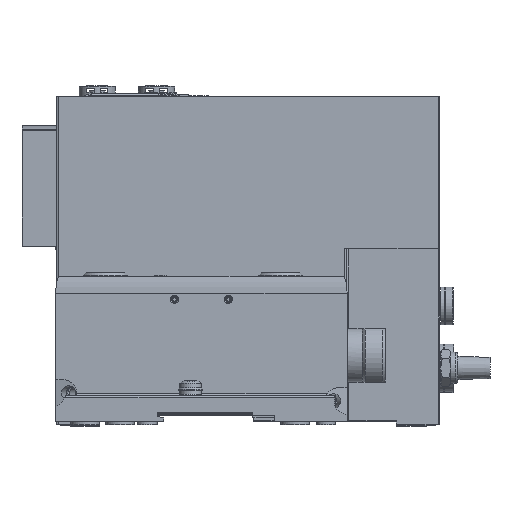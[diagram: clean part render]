
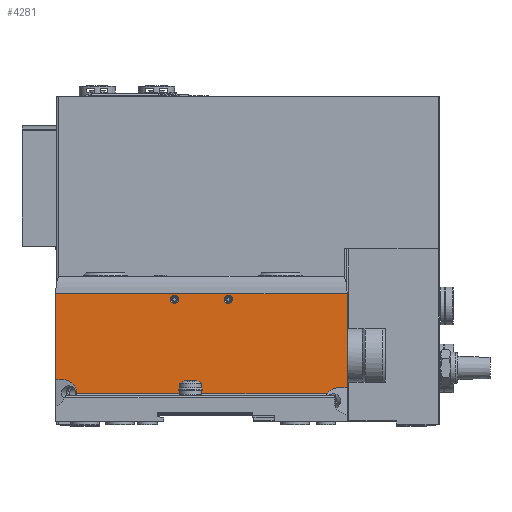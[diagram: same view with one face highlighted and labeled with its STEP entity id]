
A CAD part, top view. The second image highlights one B-rep face of the part: STEP entity #4281.
In plain terms, the highlighted planar face has unit normal (0, 0, 1) as drawn and (-1, 0, 0) by its records, which use the part's own axes.
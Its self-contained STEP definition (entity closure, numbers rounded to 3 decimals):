
#4281 = ADVANCED_FACE( '', ( #10106, #10107, #10108 ), #10109, .F. );
#10106 = FACE_BOUND( '', #17902, .T. );
#10107 = FACE_BOUND( '', #17903, .T. );
#10108 = FACE_OUTER_BOUND( '', #17904, .T. );
#10109 = PLANE( '', #17905 );
#17902 = EDGE_LOOP( '', ( #29877 ) );
#17903 = EDGE_LOOP( '', ( #29878 ) );
#17904 = EDGE_LOOP( '', ( #29879, #29880, #29881, #29882, #29883, #29884, #29885, #29886 ) );
#17905 = AXIS2_PLACEMENT_3D( '', #29887, #29888, #29889 );
#29877 = ORIENTED_EDGE( '', *, *, #46494, .T. );
#29878 = ORIENTED_EDGE( '', *, *, #46495, .T. );
#29879 = ORIENTED_EDGE( '', *, *, #46496, .T. );
#29880 = ORIENTED_EDGE( '', *, *, #46497, .T. );
#29881 = ORIENTED_EDGE( '', *, *, #46498, .F. );
#29882 = ORIENTED_EDGE( '', *, *, #44148, .F. );
#29883 = ORIENTED_EDGE( '', *, *, #46499, .F. );
#29884 = ORIENTED_EDGE( '', *, *, #46500, .T. );
#29885 = ORIENTED_EDGE( '', *, *, #46501, .F. );
#29886 = ORIENTED_EDGE( '', *, *, #46502, .T. );
#29887 = CARTESIAN_POINT( '', ( -15.4, 48.7, 54.05 ) );
#29888 = DIRECTION( '', ( 1., 0., 0. ) );
#29889 = DIRECTION( '', ( 0., 0., -1. ) );
#44148 = EDGE_CURVE( '', #52757, #52759, #52760, .T. );
#46494 = EDGE_CURVE( '', #56535, #56535, #56536, .T. );
#46495 = EDGE_CURVE( '', #56537, #56537, #56538, .T. );
#46496 = EDGE_CURVE( '', #56539, #56540, #56541, .T. );
#46497 = EDGE_CURVE( '', #56540, #56542, #56543, .T. );
#46498 = EDGE_CURVE( '', #52759, #56542, #56544, .F. );
#46499 = EDGE_CURVE( '', #56545, #52757, #56546, .F. );
#46500 = EDGE_CURVE( '', #56545, #56547, #56548, .T. );
#46501 = EDGE_CURVE( '', #56549, #56547, #56550, .T. );
#46502 = EDGE_CURVE( '', #56549, #56539, #56551, .T. );
#52757 = VERTEX_POINT( '', #64810 );
#52759 = VERTEX_POINT( '', #64821 );
#52760 = LINE( '', #64822, #64823 );
#56535 = VERTEX_POINT( '', #70050 );
#56536 = CIRCLE( '', #70051, 1.55 );
#56537 = VERTEX_POINT( '', #70052 );
#56538 = CIRCLE( '', #70053, 1.55 );
#56539 = VERTEX_POINT( '', #70054 );
#56540 = VERTEX_POINT( '', #70055 );
#56541 = LINE( '', #70056, #70057 );
#56542 = VERTEX_POINT( '', #70058 );
#56543 = LINE( '', #70059, #70060 );
#56544 = ELLIPSE( '', #70061, 5.176, 5. );
#56545 = VERTEX_POINT( '', #70062 );
#56546 = ELLIPSE( '', #70063, 5.132, 5. );
#56547 = VERTEX_POINT( '', #70064 );
#56548 = LINE( '', #70065, #70066 );
#56549 = VERTEX_POINT( '', #70067 );
#56550 = LINE( '', #70068, #70069 );
#56551 = LINE( '', #70070, #70071 );
#64810 = CARTESIAN_POINT( '', ( -15.4, 11.6, 46.669 ) );
#64821 = CARTESIAN_POINT( '', ( -15.4, 11.6, -46.319 ) );
#64822 = CARTESIAN_POINT( '', ( -15.4, 11.6, 54.05 ) );
#64823 = VECTOR( '', #79225, 1000. );
#70050 = CARTESIAN_POINT( '', ( -15.4, 46.55, -11.55 ) );
#70051 = AXIS2_PLACEMENT_3D( '', #82336, #82337, #82338 );
#70052 = CARTESIAN_POINT( '', ( -15.4, 46.55, 8.45 ) );
#70053 = AXIS2_PLACEMENT_3D( '', #82339, #82340, #82341 );
#70054 = CARTESIAN_POINT( '', ( -15.4, 48.7, -54.05 ) );
#70055 = CARTESIAN_POINT( '', ( -15.4, 16.8, -54.05 ) );
#70056 = CARTESIAN_POINT( '', ( -15.4, 48.7, -54.05 ) );
#70057 = VECTOR( '', #82342, 1000. );
#70058 = CARTESIAN_POINT( '', ( -15.4, 16.8, -51.491 ) );
#70059 = CARTESIAN_POINT( '', ( -15.4, 16.8, 54.05 ) );
#70060 = VECTOR( '', #82343, 1000. );
#70061 = AXIS2_PLACEMENT_3D( '', #82344, #82345, #82346 );
#70062 = CARTESIAN_POINT( '', ( -15.4, 13.8, 50.92 ) );
#70063 = AXIS2_PLACEMENT_3D( '', #82347, #82348, #82349 );
#70064 = CARTESIAN_POINT( '', ( -15.4, 13.8, 54.05 ) );
#70065 = CARTESIAN_POINT( '', ( -15.4, 13.8, 54.05 ) );
#70066 = VECTOR( '', #82350, 1000. );
#70067 = CARTESIAN_POINT( '', ( -15.4, 48.7, 54.05 ) );
#70068 = CARTESIAN_POINT( '', ( -15.4, 48.7, 54.05 ) );
#70069 = VECTOR( '', #82351, 1000. );
#70070 = CARTESIAN_POINT( '', ( -15.4, 48.7, 54.05 ) );
#70071 = VECTOR( '', #82352, 1000. );
#79225 = DIRECTION( '', ( 0., 0., -1. ) );
#82336 = CARTESIAN_POINT( '', ( -15.4, 46.55, -10. ) );
#82337 = DIRECTION( '', ( 1., 0., 0. ) );
#82338 = DIRECTION( '', ( 0., 0., -1. ) );
#82339 = CARTESIAN_POINT( '', ( -15.4, 46.55, 10. ) );
#82340 = DIRECTION( '', ( 1., 0., 0. ) );
#82341 = DIRECTION( '', ( 0., 0., -1. ) );
#82342 = DIRECTION( '', ( 0., -1., 0. ) );
#82343 = DIRECTION( '', ( 0., 0., 1. ) );
#82344 = CARTESIAN_POINT( '', ( -15.4, 11.8, -51.491 ) );
#82345 = DIRECTION( '', ( 1., 0., 0. ) );
#82346 = DIRECTION( '', ( 0., 0., 1. ) );
#82347 = CARTESIAN_POINT( '', ( -15.4, 8.8, 50.92 ) );
#82348 = DIRECTION( '', ( 1., 0., 0. ) );
#82349 = DIRECTION( '', ( 0., 0., -1. ) );
#82350 = DIRECTION( '', ( 0., 0., 1. ) );
#82351 = DIRECTION( '', ( 0., -1., 0. ) );
#82352 = DIRECTION( '', ( 0., 0., -1. ) );
